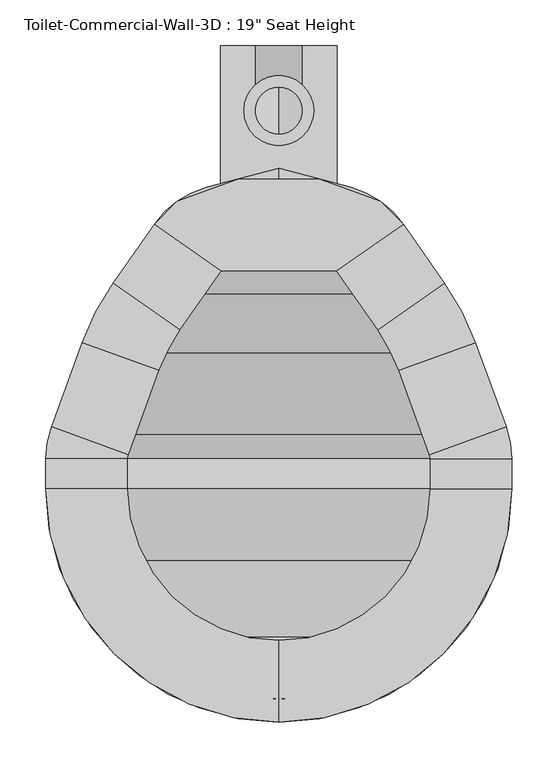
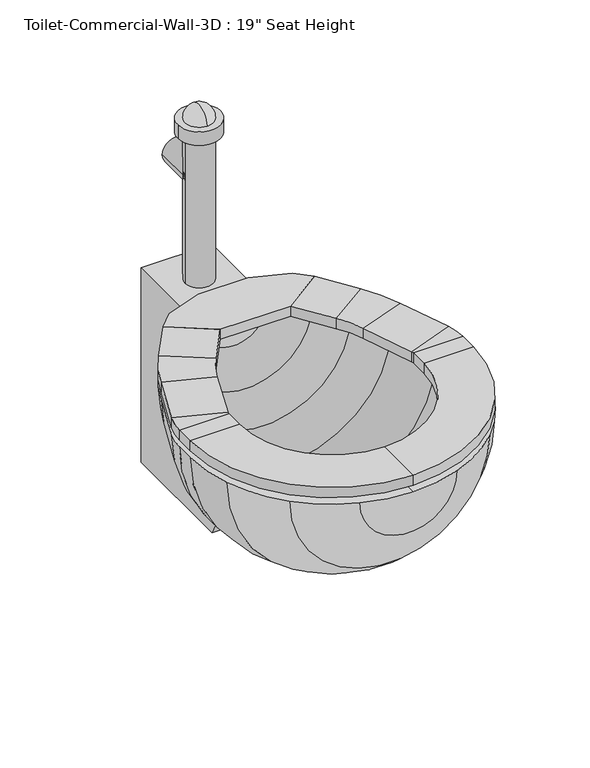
"""IFC4 building model written with IfcOpenShell, lengths in millimetres: flow terminal geometry."""

from ifc_helpers import new_model, si_unit, point, frame, frame_2d, origin, place, context, project, spatial, polyline, circle_curve, ellipse_curve, trimmed, segment, composite_curve, outline, extrude, source, transform, mapped, element, save
from ifc_brep_helpers import plane_surface, cylinder_surface, revolved_surface, advanced_brep


def flow_terminal_a41eccac(model_context):
    return source(origin(), model_context, "Body", "SolidModel", [
        extrude(outline(polyline([(467.7541169, -245.0347495), (342.0521907, -245.0347495), (269.229574, -194.0438043), (294.1800557, -169.0933226), (360.2423986, -145.0485961), (449.563909, -145.0485961), (515.6262519, -169.0933226), (540.5767337, -194.0438043), (467.7541169, -245.0347495)])), frame((0.0, 0.0, 457.2), z_axis=(0.0, 0.0, 1.0), x_axis=(1.0, 0.0, 0.0)), (0.0, 0.0, 1.0), 19.05),
        advanced_brep(
        [(467.7541169, -245.0347495, 457.2), (467.7541169, -245.0347495, 476.25), (540.5767337, -194.0438043, 476.25), (540.5767337, -194.0438043, 457.2), (585.6810159, -258.4593951, 457.2), (512.8583992, -309.4503403, 457.2), (585.6810159, -258.4593951, 476.25), (512.8583992, -309.4503403, 476.25), (619.360053, -323.1562234, 457.2), (535.821379, -353.5618141, 457.2), (619.360053, -323.1562234, 476.25), (535.821379, -353.5618141, 476.25), (652.7759241, -414.9655747, 457.2), (569.2372501, -445.3711654, 457.2), (652.7759241, -414.9655747, 476.25), (569.2372501, -445.3711654, 476.25), (658.9031538, -449.7148212, 457.2), (570.0031538, -449.7148212, 457.2), (658.9031538, -449.7148212, 476.25), (570.0031538, -449.7148212, 476.25), (658.9031538, -482.6, 457.2), (570.0031538, -482.6, 457.2), (658.9031538, -482.6, 476.25), (570.0031538, -482.6, 476.25), (404.9031538, -736.6, 457.2), (404.9031538, -647.7, 457.2), (404.9031538, -736.6, 476.25), (404.9031538, -647.7, 476.25), (150.9031538, -482.6, 457.2), (239.8031538, -482.6, 457.2), (150.9031538, -482.6, 476.25), (239.8031538, -482.6, 476.25), (150.9031538, -449.7148212, 457.2), (239.8031538, -449.7148212, 457.2), (150.9031538, -449.7148212, 476.25), (239.8031538, -449.7148212, 476.25), (157.0303835, -414.9655747, 457.2), (240.5690575, -445.3711654, 457.2), (157.0303835, -414.9655747, 476.25), (240.5690575, -445.3711654, 476.25), (190.4462546, -323.1562234, 457.2), (273.9849286, -353.5618141, 457.2), (190.4462546, -323.1562234, 476.25), (273.9849286, -353.5618141, 476.25), (224.1252917, -258.4593951, 457.2), (296.9479084, -309.4503403, 457.2), (224.1252917, -258.4593951, 476.25), (296.9479084, -309.4503403, 476.25), (342.0521907, -245.0347495, 457.2), (269.229574, -194.0438043, 457.2), (269.229574, -194.0438043, 476.25), (342.0521907, -245.0347495, 476.25)],
        [
            (0, 1),
            (1, 2),
            (2, 3),
            (3, 0),
            (3, 4),
            (4, 5),
            (5, 0),
            (2, 6),
            (6, 4),
            (1, 7),
            (7, 6),
            (5, 7),
            (8, 9),
            (9, 5, circle_curve(frame((356.8099347, -418.7166514, 457.2), z_axis=(0.0, 0.0, 1.0), x_axis=(0.81915204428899, 0.5735764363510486, 0.0)), 190.5)),
            (4, 8, circle_curve(frame((356.8099347, -418.7166514, 457.2), z_axis=(0.0, 0.0, -1.0), x_axis=(0.81915204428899, 0.5735764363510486, 0.0)), 279.4)),
            (10, 8),
            (6, 10, circle_curve(frame((356.8099347, -418.7166514, 476.25), z_axis=(0.0, 0.0, -1.0), x_axis=(0.81915204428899, 0.5735764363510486, 0.0)), 279.4)),
            (11, 10),
            (7, 11, circle_curve(frame((356.8099347, -418.7166514, 476.25), z_axis=(0.0, 0.0, -1.0), x_axis=(0.81915204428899, 0.5735764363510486, 0.0)), 190.5)),
            (9, 11),
            (8, 12),
            (12, 13),
            (13, 9),
            (10, 14),
            (14, 12),
            (11, 15),
            (15, 14),
            (13, 15),
            (16, 17),
            (17, 13, circle_curve(frame((557.3031538, -449.7148212, 457.2), z_axis=(0.0, 0.0, 1.0), x_axis=(0.9396926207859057, 0.3420201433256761, 0.0)), 12.7)),
            (12, 16, circle_curve(frame((557.3031538, -449.7148212, 457.2), z_axis=(0.0, 0.0, -1.0), x_axis=(0.9396926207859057, 0.3420201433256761, 0.0)), 101.6)),
            (18, 16),
            (14, 18, circle_curve(frame((557.3031538, -449.7148212, 476.25), z_axis=(0.0, 0.0, -1.0), x_axis=(0.9396926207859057, 0.3420201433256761, 0.0)), 101.6)),
            (19, 18),
            (15, 19, circle_curve(frame((557.3031538, -449.7148212, 476.25), z_axis=(0.0, 0.0, -1.0), x_axis=(0.9396926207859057, 0.3420201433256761, 0.0)), 12.7)),
            (17, 19),
            (16, 20),
            (20, 21),
            (21, 17),
            (18, 22),
            (22, 20),
            (19, 23),
            (23, 22),
            (21, 23),
            (24, 25),
            (25, 21, circle_curve(frame((404.9031538, -482.6, 457.2), z_axis=(0.0, 0.0, 1.0), x_axis=(1.0, 0.0, 0.0)), 165.1)),
            (20, 24, circle_curve(frame((404.9031538, -482.6, 457.2), z_axis=(0.0, 0.0, -1.0), x_axis=(1.0, 0.0, 0.0)), 254.0)),
            (26, 24),
            (22, 26, circle_curve(frame((404.9031538, -482.6, 476.25), z_axis=(0.0, 0.0, -1.0), x_axis=(1.0, 0.0, 0.0)), 254.0)),
            (27, 26),
            (23, 27, circle_curve(frame((404.9031538, -482.6, 476.25), z_axis=(0.0, 0.0, -1.0), x_axis=(1.0, 0.0, 0.0)), 165.1)),
            (25, 27),
            (28, 29),
            (29, 25, circle_curve(frame((404.9031538, -482.6, 457.2), z_axis=(0.0, 0.0, 1.0), x_axis=(0.0, -1.0, 0.0)), 165.1)),
            (24, 28, circle_curve(frame((404.9031538, -482.6, 457.2), z_axis=(0.0, 0.0, -1.0), x_axis=(0.0, -1.0, 0.0)), 254.0)),
            (30, 28),
            (26, 30, circle_curve(frame((404.9031538, -482.6, 476.25), z_axis=(0.0, 0.0, -1.0), x_axis=(0.0, -1.0, 0.0)), 254.0)),
            (31, 30),
            (27, 31, circle_curve(frame((404.9031538, -482.6, 476.25), z_axis=(0.0, 0.0, -1.0), x_axis=(0.0, -1.0, 0.0)), 165.1)),
            (29, 31),
            (28, 32),
            (32, 33),
            (33, 29),
            (30, 34),
            (34, 32),
            (31, 35),
            (35, 34),
            (33, 35),
            (36, 37),
            (37, 33, circle_curve(frame((252.5031538, -449.7148212, 457.2), z_axis=(0.0, 0.0, 1.0), x_axis=(-1.0, 0.0, 0.0)), 12.7)),
            (32, 36, circle_curve(frame((252.5031538, -449.7148212, 457.2), z_axis=(0.0, 0.0, -1.0), x_axis=(-1.0, 0.0, 0.0)), 101.6)),
            (38, 36),
            (34, 38, circle_curve(frame((252.5031538, -449.7148212, 476.25), z_axis=(0.0, 0.0, -1.0), x_axis=(-1.0, 0.0, 0.0)), 101.6)),
            (39, 38),
            (35, 39, circle_curve(frame((252.5031538, -449.7148212, 476.25), z_axis=(0.0, 0.0, -1.0), x_axis=(-1.0, 0.0, 0.0)), 12.7)),
            (37, 39),
            (36, 40),
            (40, 41),
            (41, 37),
            (38, 42),
            (42, 40),
            (39, 43),
            (43, 42),
            (41, 43),
            (44, 45),
            (45, 41, circle_curve(frame((452.9963729, -418.7166514, 457.2), z_axis=(0.0, 0.0, 1.0), x_axis=(-0.939692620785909, 0.3420201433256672, 0.0)), 190.5)),
            (40, 44, circle_curve(frame((452.9963729, -418.7166514, 457.2), z_axis=(0.0, 0.0, -1.0), x_axis=(-0.939692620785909, 0.3420201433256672, 0.0)), 279.4)),
            (46, 44),
            (42, 46, circle_curve(frame((452.9963729, -418.7166514, 476.25), z_axis=(0.0, 0.0, -1.0), x_axis=(-0.939692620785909, 0.3420201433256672, 0.0)), 279.4)),
            (47, 46),
            (43, 47, circle_curve(frame((452.9963729, -418.7166514, 476.25), z_axis=(0.0, 0.0, -1.0), x_axis=(-0.939692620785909, 0.3420201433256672, 0.0)), 190.5)),
            (45, 47),
            (48, 49),
            (49, 50),
            (50, 51),
            (51, 48),
            (44, 49),
            (48, 45),
            (46, 50),
            (47, 51),
        ],
        [
            plane_surface(frame((540.5767337, -194.0438043, 538.8995365), z_axis=(-0.5735764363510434, 0.8191520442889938, 0.0), x_axis=(0.8191520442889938, 0.5735764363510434, 0.0))),
            plane_surface(frame((467.7541169, -245.0347495, 457.2), z_axis=(0.0, 0.0, -1.0), x_axis=(0.5735764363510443, -0.8191520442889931, 0.0))),
            plane_surface(frame((540.5767337, -194.0438043, 457.2), z_axis=(0.8191520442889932, 0.5735764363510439, 0.0), x_axis=(0.5735764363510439, -0.8191520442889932, 0.0))),
            plane_surface(frame((540.5767337, -194.0438043, 476.25), z_axis=(0.0, 0.0, 1.0), x_axis=(0.5735764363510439, -0.8191520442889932, 0.0))),
            plane_surface(frame((467.7541169, -245.0347495, 476.25), z_axis=(-0.8191520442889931, -0.5735764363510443, 0.0), x_axis=(0.5735764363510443, -0.8191520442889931, 0.0))),
            plane_surface(frame((356.8099347, -418.7166514, 457.2), z_axis=(0.0, 0.0, -1.0), x_axis=(0.81915204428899, 0.5735764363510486, 0.0))),
            cylinder_surface(frame((356.8099347, -418.7166514, 444.5), z_axis=(0.0, 0.0, 1.0), x_axis=(0.81915204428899, 0.5735764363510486, 0.0)), 279.4),
            plane_surface(frame((356.8099347, -418.7166514, 476.25), z_axis=(0.0, 0.0, 1.0), x_axis=(0.81915204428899, 0.5735764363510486, 0.0))),
            revolved_surface(polyline([(512.8583991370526, -309.4503402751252, 476.25), (512.8583991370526, -309.4503402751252, 457.2)]), (356.8099347, -418.7166514, 444.5), (0.0, 0.0, 1.0)),
            plane_surface(frame((535.821379, -353.5618141, 457.2), z_axis=(0.0, 0.0, -1.0), x_axis=(0.34202014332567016, -0.9396926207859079, 0.0))),
            plane_surface(frame((619.360053, -323.1562234, 457.2), z_axis=(0.9396926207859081, 0.3420201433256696, 0.0), x_axis=(0.3420201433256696, -0.9396926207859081, 0.0))),
            plane_surface(frame((619.360053, -323.1562234, 476.25), z_axis=(0.0, 0.0, 1.0), x_axis=(0.3420201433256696, -0.9396926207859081, 0.0))),
            plane_surface(frame((535.821379, -353.5618141, 476.25), z_axis=(-0.9396926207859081, -0.34202014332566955, 0.0), x_axis=(0.34202014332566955, -0.9396926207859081, 0.0))),
            plane_surface(frame((557.3031538, -449.7148212, 457.2), z_axis=(0.0, 0.0, -1.0000000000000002), x_axis=(0.9396926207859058, 0.34202014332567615, 0.0))),
            cylinder_surface(frame((557.3031538, -449.7148212, 444.5), z_axis=(0.0, 0.0, 1.0), x_axis=(0.9396926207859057, 0.3420201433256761, 0.0)), 101.6),
            plane_surface(frame((557.3031538, -449.7148212, 476.25), z_axis=(0.0, 0.0, 1.0000000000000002), x_axis=(0.9396926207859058, 0.34202014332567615, 0.0))),
            revolved_surface(polyline([(569.237250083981, -445.3711653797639, 476.25), (569.237250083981, -445.3711653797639, 457.2)]), (557.3031538, -449.7148212, 444.5), (0.0, 0.0, 1.0)),
            plane_surface(frame((570.0031538, -449.7148212, 457.2), z_axis=(0.0, 0.0, -1.0), x_axis=(0.0, -1.0, 0.0))),
            plane_surface(frame((658.9031538, -449.7148212, 457.2), z_axis=(1.0, 0.0, 0.0), x_axis=(0.0, -1.0, 0.0))),
            plane_surface(frame((658.9031538, -449.7148212, 476.25), z_axis=(0.0, 0.0, 1.0), x_axis=(0.0, -1.0, 0.0))),
            plane_surface(frame((570.0031538, -449.7148212, 476.25), z_axis=(-1.0, 0.0, 0.0), x_axis=(0.0, -1.0, 0.0))),
            plane_surface(frame((404.9031538, -482.6, 457.2), z_axis=(0.0, 0.0, -1.0), x_axis=(1.0, 0.0, 0.0))),
            cylinder_surface(frame((404.9031538, -482.6, 444.5), z_axis=(0.0, 0.0, 1.0), x_axis=(1.0, 0.0, 0.0)), 254.0),
            plane_surface(frame((404.9031538, -482.6, 476.25), z_axis=(0.0, 0.0, 1.0), x_axis=(1.0, 0.0, 0.0))),
            revolved_surface(polyline([(570.0031538, -482.6, 476.25), (570.0031538, -482.6, 457.2)]), (404.9031538, -482.6, 444.5), (0.0, 0.0, 1.0)),
            plane_surface(frame((404.9031538, -482.6, 457.2), z_axis=(0.0, 0.0, -1.0), x_axis=(0.0, -1.0, 0.0))),
            cylinder_surface(frame((404.9031538, -482.6, 444.5), z_axis=(0.0, 0.0, 1.0), x_axis=(0.0, -1.0, 0.0)), 254.0),
            plane_surface(frame((404.9031538, -482.6, 476.25), z_axis=(0.0, 0.0, 1.0), x_axis=(0.0, -1.0, 0.0))),
            revolved_surface(polyline([(404.9031538, -647.7, 476.25), (404.9031538, -647.7, 457.2)]), (404.9031538, -482.6, 444.5), (0.0, 0.0, 1.0)),
            plane_surface(frame((239.8031538, -482.6, 457.2), z_axis=(0.0, 0.0, -1.0), x_axis=(0.0, 1.0, 0.0))),
            plane_surface(frame((150.9031538, -482.6, 457.2), z_axis=(-1.0, 0.0, 0.0), x_axis=(0.0, 1.0, 0.0))),
            plane_surface(frame((150.9031538, -482.6, 476.25), z_axis=(0.0, 0.0, 1.0), x_axis=(0.0, 1.0, 0.0))),
            plane_surface(frame((239.8031538, -482.6, 476.25), z_axis=(1.0, 0.0, 0.0), x_axis=(0.0, 1.0, 0.0))),
            plane_surface(frame((252.5031538, -449.7148212, 457.2), z_axis=(0.0, 0.0, -1.0), x_axis=(-1.0, 0.0, 0.0))),
            cylinder_surface(frame((252.5031538, -449.7148212, 444.5), z_axis=(0.0, 0.0, 1.0), x_axis=(-1.0, 0.0, 0.0)), 101.6),
            plane_surface(frame((252.5031538, -449.7148212, 476.25), z_axis=(0.0, 0.0, 1.0), x_axis=(-1.0, 0.0, 0.0))),
            revolved_surface(polyline([(239.80315380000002, -449.7148212, 476.25), (239.80315380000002, -449.7148212, 457.2)]), (252.5031538, -449.7148212, 444.5), (0.0, 0.0, 1.0)),
            plane_surface(frame((240.5690575, -445.3711654, 457.2), z_axis=(0.0, 0.0, -1.0000000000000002), x_axis=(0.3420201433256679, 0.9396926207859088, 0.0))),
            plane_surface(frame((157.0303835, -414.9655747, 457.2), z_axis=(-0.939692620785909, 0.34202014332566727, 0.0), x_axis=(0.34202014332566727, 0.939692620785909, 0.0))),
            plane_surface(frame((157.0303835, -414.9655747, 476.25), z_axis=(0.0, 0.0, 1.0000000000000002), x_axis=(0.34202014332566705, 0.9396926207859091, 0.0))),
            plane_surface(frame((240.5690575, -445.3711654, 476.25), z_axis=(0.9396926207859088, -0.3420201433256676, 0.0), x_axis=(0.3420201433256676, 0.9396926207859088, 0.0))),
            plane_surface(frame((452.9963729, -418.7166514, 457.2), z_axis=(0.0, 0.0, -1.0), x_axis=(-0.939692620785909, 0.3420201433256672, 0.0))),
            cylinder_surface(frame((452.9963729, -418.7166514, 444.5), z_axis=(0.0, 0.0, 1.0), x_axis=(-0.939692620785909, 0.3420201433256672, 0.0)), 279.4),
            plane_surface(frame((452.9963729, -418.7166514, 476.25), z_axis=(0.0, 0.0, 1.0), x_axis=(-0.939692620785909, 0.3420201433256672, 0.0))),
            revolved_surface(polyline([(273.98492864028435, -353.56181409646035, 476.25), (273.98492864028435, -353.56181409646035, 457.2)]), (452.9963729, -418.7166514, 444.5), (0.0, 0.0, 1.0)),
            plane_surface(frame((269.229574, -194.0438043, 350.1004635), z_axis=(0.5735764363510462, 0.8191520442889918, 0.0), x_axis=(0.8191520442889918, -0.5735764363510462, 0.0))),
            plane_surface(frame((296.9479084, -309.4503403, 457.2), z_axis=(0.0, 0.0, -1.0000000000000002), x_axis=(0.5735764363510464, 0.8191520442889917, 0.0))),
            plane_surface(frame((224.1252917, -258.4593951, 457.2), z_axis=(-0.8191520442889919, 0.5735764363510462, 0.0), x_axis=(0.5735764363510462, 0.8191520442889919, 0.0))),
            plane_surface(frame((224.1252917, -258.4593951, 476.25), z_axis=(0.0, 0.0, 1.0000000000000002), x_axis=(0.5735764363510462, 0.8191520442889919, 0.0))),
            plane_surface(frame((296.9479084, -309.4503403, 476.25), z_axis=(0.8191520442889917, -0.5735764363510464, 0.0), x_axis=(0.5735764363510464, 0.8191520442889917, 0.0))),
        ],
        [
            (0, [[1, 2, 3, 4]]),
            (1, [[5, 6, 7, -4]]),
            (2, [[8, 9, -5, -3]]),
            (3, [[10, 11, -8, -2]]),
            (4, [[-7, 12, -10, -1]]),
            (5, [[13, 14, -6, 15]]),
            (6, [[16, -15, -9, 17]]),
            (7, [[18, -17, -11, 19]]),
            (8, [[20, -19, -12, -14]]),
            (9, [[21, 22, 23, -13]]),
            (10, [[24, 25, -21, -16]]),
            (11, [[26, 27, -24, -18]]),
            (12, [[-23, 28, -26, -20]]),
            (13, [[29, 30, -22, 31]]),
            (14, [[32, -31, -25, 33]]),
            (15, [[34, -33, -27, 35]]),
            (16, [[36, -35, -28, -30]]),
            (17, [[37, 38, 39, -29]]),
            (18, [[40, 41, -37, -32]]),
            (19, [[42, 43, -40, -34]]),
            (20, [[-39, 44, -42, -36]]),
            (21, [[45, 46, -38, 47]]),
            (22, [[48, -47, -41, 49]]),
            (23, [[50, -49, -43, 51]]),
            (24, [[52, -51, -44, -46]]),
            (25, [[53, 54, -45, 55]]),
            (26, [[56, -55, -48, 57]]),
            (27, [[58, -57, -50, 59]]),
            (28, [[60, -59, -52, -54]]),
            (29, [[61, 62, 63, -53]]),
            (30, [[64, 65, -61, -56]]),
            (31, [[66, 67, -64, -58]]),
            (32, [[-63, 68, -66, -60]]),
            (33, [[69, 70, -62, 71]]),
            (34, [[72, -71, -65, 73]]),
            (35, [[74, -73, -67, 75]]),
            (36, [[76, -75, -68, -70]]),
            (37, [[77, 78, 79, -69]]),
            (38, [[80, 81, -77, -72]]),
            (39, [[82, 83, -80, -74]]),
            (40, [[-79, 84, -82, -76]]),
            (41, [[85, 86, -78, 87]]),
            (42, [[88, -87, -81, 89]]),
            (43, [[90, -89, -83, 91]]),
            (44, [[92, -91, -84, -86]]),
            (45, [[93, 94, 95, 96]]),
            (46, [[97, -93, 98, -85]]),
            (47, [[99, -94, -97, -88]]),
            (48, [[100, -95, -99, -90]]),
            (49, [[-98, -96, -100, -92]]),
        ],
    ),
        advanced_brep(
        [(491.7762702, -721.2819257, 444.5), (584.5082762, -662.2051224, 444.5), (643.5850795, -569.4731164, 444.5), (658.9031538, -482.6, 444.5), (658.9031538, -449.7148212, 444.5), (652.7759241, -414.9655747, 444.5), (619.360053, -323.1562234, 444.5), (585.6810159, -258.4593951, 444.5), (540.5767337, -194.0438043, 444.5), (483.6469009, -154.1811063, 444.5), (404.9031538, -133.0817829, 444.5), (404.9031538, -159.3777978, 444.5), (468.1430637, -176.3228806, 444.5), (525.0728964, -216.1855786, 444.5), (562.9565296, -270.2890139, 444.5), (596.6355667, -334.9858422, 444.5), (628.9077315, -423.6528863, 444.5), (633.5031538, -449.7148212, 444.5), (633.5031538, -482.6, 444.5), (619.7168869, -560.7858048, 444.5), (566.547764, -644.2446102, 444.5), (483.0889586, -697.4137331, 444.5), (404.9031538, -711.2, 444.5), (404.9031538, -736.6, 444.5), (318.0300374, -721.2819257, 444.5), (326.7173491, -697.4137331, 444.5), (243.2585436, -644.2446102, 444.5), (190.0894207, -560.7858048, 444.5), (176.3031538, -482.6, 444.5), (176.3031538, -449.7148212, 444.5), (180.8985761, -423.6528863, 444.5), (213.1707409, -334.9858422, 444.5), (246.849778, -270.2890139, 444.5), (284.7334112, -216.1855786, 444.5), (341.663244, -176.3228806, 444.5), (326.1594067, -154.1811063, 444.5), (269.229574, -194.0438043, 444.5), (224.1252917, -258.4593951, 444.5), (190.4462546, -323.1562234, 444.5), (157.0303835, -414.9655747, 444.5), (150.9031538, -449.7148212, 444.5), (150.9031538, -482.6, 444.5), (166.2212281, -569.4731164, 444.5), (225.2980314, -662.2051224, 444.5)],
        [
            (0, 1, circle_curve(frame((404.9031538, -482.6, 444.5), z_axis=(0.0, 0.0, 1.0), x_axis=(1.0, 0.0, 0.0)), 254.0)),
            (1, 2, circle_curve(frame((404.9031538, -482.6, 444.5), z_axis=(0.0, 0.0, 1.0), x_axis=(1.0, 0.0, 0.0)), 254.0)),
            (2, 3, circle_curve(frame((404.9031538, -482.6, 444.5), z_axis=(0.0, 0.0, 1.0), x_axis=(1.0, 0.0, 0.0)), 254.0)),
            (3, 4),
            (4, 5, circle_curve(frame((557.3031538, -449.7148212, 444.5), z_axis=(0.0, 0.0, 1.0), x_axis=(1.0, 0.0, 0.0)), 101.6)),
            (5, 6),
            (6, 7, circle_curve(frame((356.8099347, -418.7166514, 444.5), z_axis=(0.0, 0.0, 1.0), x_axis=(1.0, 0.0, 0.0)), 279.4)),
            (7, 8),
            (8, 9, circle_curve(frame((457.350886, -252.3191703, 444.5), z_axis=(0.0, 0.0, 1.0), x_axis=(1.0, 0.0, 0.0)), 101.6)),
            (9, 10),
            (10, 11),
            (11, 12),
            (12, 13, circle_curve(frame((441.8470487, -274.4609446, 444.5), z_axis=(0.0, 0.0, -1.0), x_axis=(1.0, 0.0, 0.0)), 101.6)),
            (13, 14),
            (14, 15, circle_curve(frame((334.0854485, -430.5462703, 444.5), z_axis=(0.0, 0.0, -1.0), x_axis=(1.0, 0.0, 0.0)), 279.4)),
            (15, 16),
            (16, 17, circle_curve(frame((557.3031538, -449.7148212, 444.5), z_axis=(0.0, 0.0, -1.0), x_axis=(1.0, 0.0, 0.0)), 76.2)),
            (17, 18),
            (18, 19, circle_curve(frame((404.9031538, -482.6, 444.5), z_axis=(0.0, 0.0, -1.0), x_axis=(1.0, 0.0, 0.0)), 228.6)),
            (19, 20, circle_curve(frame((404.9031538, -482.6, 444.5), z_axis=(0.0, 0.0, -1.0), x_axis=(1.0, 0.0, 0.0)), 228.6)),
            (20, 21, circle_curve(frame((404.9031538, -482.6, 444.5), z_axis=(0.0, 0.0, -1.0), x_axis=(1.0, 0.0, 0.0)), 228.6)),
            (21, 22, circle_curve(frame((404.9031538, -482.6, 444.5), z_axis=(0.0, 0.0, -1.0), x_axis=(1.0, 0.0, 0.0)), 228.6)),
            (22, 23),
            (23, 0, circle_curve(frame((404.9031538, -482.6, 444.5), z_axis=(0.0, 0.0, 1.0), x_axis=(1.0, 0.0, 0.0)), 254.0)),
            (24, 23, circle_curve(frame((404.9031538, -482.6, 444.5), z_axis=(0.0, 0.0, 1.0), x_axis=(-1.0, 0.0, 0.0)), 254.0)),
            (22, 25, circle_curve(frame((404.9031538, -482.6, 444.5), z_axis=(0.0, 0.0, -1.0), x_axis=(-1.0, 0.0, 0.0)), 228.6)),
            (25, 26, circle_curve(frame((404.9031538, -482.6, 444.5), z_axis=(0.0, 0.0, -1.0), x_axis=(-1.0, 0.0, 0.0)), 228.6)),
            (26, 27, circle_curve(frame((404.9031538, -482.6, 444.5), z_axis=(0.0, 0.0, -1.0), x_axis=(-1.0, 0.0, 0.0)), 228.6)),
            (27, 28, circle_curve(frame((404.9031538, -482.6, 444.5), z_axis=(0.0, 0.0, -1.0), x_axis=(-1.0, 0.0, 0.0)), 228.6)),
            (28, 29),
            (29, 30, circle_curve(frame((252.5031538, -449.7148212, 444.5), z_axis=(0.0, 0.0, -1.0), x_axis=(-1.0, 0.0, 0.0)), 76.2)),
            (30, 31),
            (31, 32, circle_curve(frame((475.7208592, -430.5462703, 444.5), z_axis=(0.0, 0.0, -1.0), x_axis=(-1.0, 0.0, 0.0)), 279.4)),
            (32, 33),
            (33, 34, circle_curve(frame((367.9592589, -274.4609446, 444.5), z_axis=(0.0, 0.0, -1.0), x_axis=(-1.0, 0.0, 0.0)), 101.6)),
            (34, 11),
            (10, 35),
            (35, 36, circle_curve(frame((352.4554217, -252.3191703, 444.5), z_axis=(0.0, 0.0, 1.0), x_axis=(-1.0, 0.0, 0.0)), 101.6)),
            (36, 37),
            (37, 38, circle_curve(frame((452.9963729, -418.7166514, 444.5), z_axis=(0.0, 0.0, 1.0), x_axis=(-1.0, 0.0, 0.0)), 279.4)),
            (38, 39),
            (39, 40, circle_curve(frame((252.5031538, -449.7148212, 444.5), z_axis=(0.0, 0.0, 1.0), x_axis=(-1.0, 0.0, 0.0)), 101.6)),
            (40, 41),
            (41, 42, circle_curve(frame((404.9031538, -482.6, 444.5), z_axis=(0.0, 0.0, 1.0), x_axis=(-1.0, 0.0, 0.0)), 254.0)),
            (42, 43, circle_curve(frame((404.9031538, -482.6, 444.5), z_axis=(0.0, 0.0, 1.0), x_axis=(-1.0, 0.0, 0.0)), 254.0)),
            (43, 24, circle_curve(frame((404.9031538, -482.6, 444.5), z_axis=(0.0, 0.0, 1.0), x_axis=(-1.0, 0.0, 0.0)), 254.0)),
            (24, 0, circle_curve(frame((404.9031538, -721.2819257, 444.5), z_axis=(0.0, -1.0, 0.0), x_axis=(1.0, 0.0, 0.0)), 86.8731164)),
            (21, 25, circle_curve(frame((404.9031538, -697.4137331, 444.5), z_axis=(0.0, 1.0, 0.0), x_axis=(1.0, 0.0, 0.0)), 78.1858048)),
            (20, 26, circle_curve(frame((404.9031538, -644.2446102, 444.5), z_axis=(0.0, 1.0, 0.0), x_axis=(1.0, 0.0, 0.0)), 161.6446102)),
            (19, 27, circle_curve(frame((404.9031538, -560.7858048, 444.5), z_axis=(0.0, 1.0, 0.0), x_axis=(1.0, 0.0, 0.0)), 214.8137331)),
            (18, 28, circle_curve(frame((404.9031538, -482.6, 444.5), z_axis=(0.0, 1.0, 0.0), x_axis=(1.0, 0.0, 0.0)), 228.6)),
            (17, 29, circle_curve(frame((404.9031538, -449.7148212, 444.5), z_axis=(0.0, 1.0, 0.0), x_axis=(1.0, 0.0, 0.0)), 228.6)),
            (16, 30, circle_curve(frame((404.9031538, -423.6528863, 444.5), z_axis=(0.0, 1.0, 0.0), x_axis=(1.0, 0.0, 0.0)), 224.0045777)),
            (15, 31, circle_curve(frame((404.9031538, -334.9858422, 444.5), z_axis=(0.0, 1.0, 0.0), x_axis=(1.0, 0.0, 0.0)), 191.7324129)),
            (14, 32, circle_curve(frame((404.9031538, -270.2890139, 444.5), z_axis=(0.0, 1.0, 0.0), x_axis=(1.0, 0.0, 0.0)), 158.0533758)),
            (13, 33, circle_curve(frame((404.9031538, -216.1855786, 444.5), z_axis=(0.0, 1.0, 0.0), x_axis=(1.0, 0.0, 0.0)), 120.1697426)),
            (12, 34, circle_curve(frame((404.9031538, -176.3228806, 444.5), z_axis=(0.0, 1.0, 0.0), x_axis=(1.0, 0.0, 0.0)), 63.2399099)),
            (9, 35, circle_curve(frame((404.9031538, -154.1811063, 444.5), z_axis=(0.0, 1.0, 0.0), x_axis=(1.0, 0.0, 0.0)), 78.7437471)),
            (8, 36, circle_curve(frame((404.9031538, -194.0438043, 444.5), z_axis=(0.0, 1.0, 0.0), x_axis=(1.0, 0.0, 0.0)), 135.6735798)),
            (7, 37, circle_curve(frame((404.9031538, -258.4593951, 444.5), z_axis=(0.0, 1.0, 0.0), x_axis=(1.0, 0.0, 0.0)), 180.7778621)),
            (6, 38, circle_curve(frame((404.9031538, -323.1562234, 444.5), z_axis=(0.0, 1.0, 0.0), x_axis=(1.0, 0.0, 0.0)), 214.4568992)),
            (5, 39, circle_curve(frame((404.9031538, -414.9655747, 444.5), z_axis=(0.0, 1.0, 0.0), x_axis=(1.0, 0.0, 0.0)), 247.8727703)),
            (4, 40, circle_curve(frame((404.9031538, -449.7148212, 444.5), z_axis=(0.0, 1.0, 0.0), x_axis=(1.0, 0.0, 0.0)), 254.0)),
            (3, 41, circle_curve(frame((404.9031538, -482.6, 444.5), z_axis=(0.0, 1.0, 0.0), x_axis=(1.0, 0.0, 0.0)), 254.0)),
            (2, 42, circle_curve(frame((404.9031538, -569.4731164, 444.5), z_axis=(0.0, 1.0, 0.0), x_axis=(1.0, 0.0, 0.0)), 238.6819257)),
            (1, 43, circle_curve(frame((404.9031538, -662.2051224, 444.5), z_axis=(0.0, 1.0, 0.0), x_axis=(1.0, 0.0, 0.0)), 179.6051224)),
        ],
        [
            plane_surface(frame((404.9031538, -841.8102448, 444.5), z_axis=(0.0, 0.0, 1.0), x_axis=(1.0, 0.0, 0.0))),
            plane_surface(frame((404.9031538, -841.8102448, 444.5), z_axis=(0.0, 0.0, 1.0), x_axis=(-1.0, 0.0, 0.0))),
            revolved_surface(trimmed(ellipse_curve(frame((404.9031538, -482.6, 444.5), z_axis=(0.0, 0.0, -1.0), x_axis=(1.0, 0.0, 0.0)), 254.0, 254.0), [point((491.7762702, -721.2819257, 444.5))], [point((404.9031538, -736.6, 444.5))], True, "CARTESIAN"), (404.9031538, -841.8102448, 444.5), (0.0, -1.0, 0.0)),
            revolved_surface(trimmed(ellipse_curve(frame((404.9031538, -482.6, 444.5), z_axis=(0.0, 0.0, 1.0), x_axis=(1.0, 0.0, 0.0)), 228.6, 228.6), [point((404.9031538, -711.2, 444.5))], [point((483.0889586, -697.4137331, 444.5))], True, "CARTESIAN"), (404.9031538, -841.8102448, 444.5), (0.0, -1.0, 0.0)),
            revolved_surface(trimmed(ellipse_curve(frame((404.9031538, -482.6, 444.5), z_axis=(0.0, 0.0, 1.0), x_axis=(1.0, 0.0, 0.0)), 228.6, 228.6), [point((483.0889586, -697.4137331, 444.5))], [point((566.547764, -644.2446102, 444.5))], True, "CARTESIAN"), (404.9031538, -841.8102448, 444.5), (0.0, -1.0, 0.0)),
            revolved_surface(trimmed(ellipse_curve(frame((404.9031538, -482.6, 444.5), z_axis=(0.0, 0.0, 1.0), x_axis=(1.0, 0.0, 0.0)), 228.6, 228.6), [point((566.547764, -644.2446102, 444.5))], [point((619.7168869, -560.7858048, 444.5))], True, "CARTESIAN"), (404.9031538, -841.8102448, 444.5), (0.0, -1.0, 0.0)),
            revolved_surface(trimmed(ellipse_curve(frame((404.9031538, -482.6, 444.5), z_axis=(0.0, 0.0, 1.0), x_axis=(1.0, 0.0, 0.0)), 228.6, 228.6), [point((619.7168869, -560.7858048, 444.5))], [point((633.5031538, -482.6, 444.5))], True, "CARTESIAN"), (404.9031538, -841.8102448, 444.5), (0.0, -1.0, 0.0)),
            revolved_surface(polyline([(633.5031538, -482.6, 444.5), (633.5031538, -449.7148212, 444.5)]), (404.9031538, -841.8102448, 444.5), (0.0, -1.0, 0.0)),
            revolved_surface(trimmed(ellipse_curve(frame((557.3031538, -449.7148212, 444.5), z_axis=(0.0, 0.0, 1.0), x_axis=(1.0, 0.0, 0.0)), 76.2, 76.2), [point((633.5031538, -449.7148212, 444.5))], [point((628.9077315, -423.6528863, 444.5))], True, "CARTESIAN"), (404.9031538, -841.8102448, 444.5), (0.0, -1.0, 0.0)),
            revolved_surface(polyline([(628.9077315, -423.6528863, 444.5), (596.6355667, -334.9858422, 444.5)]), (404.9031538, -841.8102448, 444.5), (0.0, -1.0, 0.0)),
            revolved_surface(trimmed(ellipse_curve(frame((334.0854485, -430.5462703, 444.5), z_axis=(0.0, 0.0, 1.0), x_axis=(1.0, 0.0, 0.0)), 279.4, 279.4), [point((596.6355667, -334.9858422, 444.5))], [point((562.9565296, -270.2890139, 444.5))], True, "CARTESIAN"), (404.9031538, -841.8102448, 444.5), (0.0, -1.0, 0.0)),
            revolved_surface(polyline([(562.9565296, -270.2890139, 444.5), (525.0728964, -216.1855786, 444.5)]), (404.9031538, -841.8102448, 444.5), (0.0, -1.0, 0.0)),
            revolved_surface(trimmed(ellipse_curve(frame((441.8470487, -274.4609446, 444.5), z_axis=(0.0, 0.0, 1.0), x_axis=(1.0, 0.0, 0.0)), 101.6, 101.6), [point((525.0728964, -216.1855786, 444.5))], [point((468.1430637, -176.3228806, 444.5))], True, "CARTESIAN"), (404.9031538, -841.8102448, 444.5), (0.0, -1.0, 0.0)),
            revolved_surface(polyline([(468.1430637, -176.3228806, 444.5), (404.9031538, -159.3777978, 444.5)]), (404.9031538, -841.8102448, 444.5), (0.0, -1.0, 0.0)),
            revolved_surface(polyline([(404.9031538, -133.0817829, 444.5), (483.6469009, -154.1811063, 444.5)]), (404.9031538, -841.8102448, 444.5), (0.0, -1.0, 0.0)),
            revolved_surface(trimmed(ellipse_curve(frame((457.350886, -252.3191703, 444.5), z_axis=(0.0, 0.0, -1.0), x_axis=(1.0, 0.0, 0.0)), 101.6, 101.6), [point((483.6469009, -154.1811063, 444.5))], [point((540.5767337, -194.0438043, 444.5))], True, "CARTESIAN"), (404.9031538, -841.8102448, 444.5), (0.0, -1.0, 0.0)),
            revolved_surface(polyline([(540.5767337, -194.0438043, 444.5), (585.6810159, -258.4593951, 444.5)]), (404.9031538, -841.8102448, 444.5), (0.0, -1.0, 0.0)),
            revolved_surface(trimmed(ellipse_curve(frame((356.8099347, -418.7166514, 444.5), z_axis=(0.0, 0.0, -1.0), x_axis=(1.0, 0.0, 0.0)), 279.4, 279.4), [point((585.6810159, -258.4593951, 444.5))], [point((619.360053, -323.1562234, 444.5))], True, "CARTESIAN"), (404.9031538, -841.8102448, 444.5), (0.0, -1.0, 0.0)),
            revolved_surface(polyline([(619.360053, -323.1562234, 444.5), (652.7759241, -414.9655747, 444.5)]), (404.9031538, -841.8102448, 444.5), (0.0, -1.0, 0.0)),
            revolved_surface(trimmed(ellipse_curve(frame((557.3031538, -449.7148212, 444.5), z_axis=(0.0, 0.0, -1.0), x_axis=(1.0, 0.0, 0.0)), 101.6, 101.6), [point((652.7759241, -414.9655747, 444.5))], [point((658.9031538, -449.7148212, 444.5))], True, "CARTESIAN"), (404.9031538, -841.8102448, 444.5), (0.0, -1.0, 0.0)),
            cylinder_surface(frame((404.9031538, -841.8102448, 444.5), z_axis=(0.0, -1.0, 0.0), x_axis=(1.0, 0.0, 0.0)), 254.0),
            revolved_surface(trimmed(ellipse_curve(frame((404.9031538, -482.6, 444.5), z_axis=(0.0, 0.0, -1.0), x_axis=(1.0, 0.0, 0.0)), 254.0, 254.0), [point((658.9031538, -482.6, 444.5))], [point((643.5850795, -569.4731164, 444.5))], True, "CARTESIAN"), (404.9031538, -841.8102448, 444.5), (0.0, -1.0, 0.0)),
            revolved_surface(trimmed(ellipse_curve(frame((404.9031538, -482.6, 444.5), z_axis=(0.0, 0.0, -1.0), x_axis=(1.0, 0.0, 0.0)), 254.0, 254.0), [point((643.5850795, -569.4731164, 444.5))], [point((584.5082762, -662.2051224, 444.5))], True, "CARTESIAN"), (404.9031538, -841.8102448, 444.5), (0.0, -1.0, 0.0)),
            revolved_surface(trimmed(ellipse_curve(frame((404.9031538, -482.6, 444.5), z_axis=(0.0, 0.0, -1.0), x_axis=(1.0, 0.0, 0.0)), 254.0, 254.0), [point((584.5082762, -662.2051224, 444.5))], [point((491.7762702, -721.2819257, 444.5))], True, "CARTESIAN"), (404.9031538, -841.8102448, 444.5), (0.0, -1.0, 0.0)),
        ],
        [
            (0, [[1, 2, 3, 4, 5, 6, 7, 8, 9, 10, 11, 12, 13, 14, 15, 16, 17, 18, 19, 20, 21, 22, 23, 24]]),
            (1, [[25, -23, 26, 27, 28, 29, 30, 31, 32, 33, 34, 35, 36, -11, 37, 38, 39, 40, 41, 42, 43, 44, 45, 46]]),
            (2, [[-25, 47, -24]]),
            (3, [[-26, -22, 48]]),
            (4, [[-27, -48, -21, 49]]),
            (5, [[-28, -49, -20, 50]]),
            (6, [[-29, -50, -19, 51]]),
            (7, [[-30, -51, -18, 52]]),
            (8, [[-31, -52, -17, 53]]),
            (9, [[-32, -53, -16, 54]]),
            (10, [[-33, -54, -15, 55]]),
            (11, [[-34, -55, -14, 56]]),
            (12, [[-35, -56, -13, 57]]),
            (13, [[-36, -57, -12]]),
            (14, [[-37, -10, 58]]),
            (15, [[-38, -58, -9, 59]]),
            (16, [[-39, -59, -8, 60]]),
            (17, [[-40, -60, -7, 61]]),
            (18, [[-41, -61, -6, 62]]),
            (19, [[-42, -62, -5, 63]]),
            (20, [[-43, -63, -4, 64]]),
            (21, [[-44, -64, -3, 65]]),
            (22, [[-45, -65, -2, 66]]),
            (23, [[-46, -66, -1, -47]]),
        ],
    ),
        advanced_brep(
        [(404.9031538, -44.9176912, 749.3), (404.9031538, -70.5352737, 774.9175826), (404.9031538, -96.1528563, 749.3), (404.9031538, -70.5352737, 749.3)],
        [
            (0, 1, circle_curve(frame((404.9031538, -70.5352737, 749.3), z_axis=(1.0, 0.0, 0.0), x_axis=(0.0, -1.0, 0.0)), 25.6175826)),
            (1, 2, circle_curve(frame((404.9031538, -70.5352737, 749.3), z_axis=(1.0, 0.0, 0.0), x_axis=(0.0, 1.0, 0.0)), 25.6175826)),
            (2, 0, circle_curve(frame((404.9031538, -70.5352737, 749.3), z_axis=(0.0, 0.0, 1.0), x_axis=(0.0, -1.0, 0.0)), 25.6175826)),
            (0, 2, circle_curve(frame((404.9031538, -70.5352737, 749.3), z_axis=(0.0, 0.0, 1.0), x_axis=(0.0, -1.0, 0.0)), 25.6175826)),
            (3, 0),
            (2, 3),
        ],
        [
            revolved_surface(trimmed(ellipse_curve(frame((404.9031538, -70.5352737, 749.3), z_axis=(1.0, 0.0, 0.0), x_axis=(0.0, 1.0, 0.0)), 25.6175826, 25.6175826), [point((404.9031538, -70.5352737, 774.9175826))], [point((404.9031538, -96.1528563, 749.3))], True, "CARTESIAN"), (404.9031538, -70.5352737, 813.9277273), (0.0, 0.0, -1.0)),
            plane_surface(frame((404.9031538, -70.5352737, 749.3), z_axis=(0.0, 0.0, -1.0), x_axis=(0.0, -1.0, 0.0))),
        ],
        [
            (0, [[1, 2, 3]]),
            (0, [[-2, -1, 4]]),
            (1, [[5, -3, 6]]),
            (1, [[-6, -4, -5]]),
        ],
    ),
        extrude(outline(composite_curve([segment(trimmed(circle_curve(frame_2d((404.9031538, -70.5352737)), 38.1), [point((366.8031538, -70.5352737))], [point((443.0031538, -70.5352737))], False, "CARTESIAN"), True, "CONTINUOUS"), segment(trimmed(circle_curve(frame_2d((404.9031538, -70.5352737)), 38.1), [point((443.0031538, -70.5352737))], [point((366.8031538, -70.5352737))], False, "CARTESIAN"), True, "CONTINUOUS")], self_intersect=False)), frame((0.0, 0.0, 723.9), z_axis=(0.0, 0.0, 1.0), x_axis=(1.0, 0.0, 0.0)), (0.0, 0.0, 1.0), 25.4),
        extrude(outline(composite_curve([segment(trimmed(circle_curve(frame_2d((645.8113641, 404.9031538)), 25.4), [point((645.8113641, 379.5031538))], [point((645.8113641, 430.3031538))], False, "CARTESIAN"), True, "CONTINUOUS"), segment(trimmed(circle_curve(frame_2d((645.8113641, 404.9031538)), 25.4), [point((645.8113641, 430.3031538))], [point((645.8113641, 379.5031538))], False, "CARTESIAN"), True, "CONTINUOUS")], self_intersect=False)), frame((0.0, -70.64375, 0.0), z_axis=(0.0, 1.0, 0.0), x_axis=(0.0, 0.0, 1.0)), (0.0, 0.0, 1.0), 70.64375),
        extrude(outline(polyline([(-152.8037941, 444.5), (0.0, 444.5), (0.0, 76.2), (-220.0454017, 76.2), (-300.5426282, 235.6328588), (-196.5103185, 308.4770663), (-152.8037941, 370.896452), (-152.8037941, 444.5)])), frame((341.4031538, 0.0, 0.0), z_axis=(1.0, 0.0, 0.0), x_axis=(0.0, 1.0, 0.0)), (0.0, 0.0, 1.0), 127.0),
        extrude(outline(composite_curve([segment(trimmed(circle_curve(frame_2d((404.9031538, -70.5352737)), 25.4), [point((379.5031538, -70.5352737))], [point((430.3031538, -70.5352737))], False, "CARTESIAN"), True, "CONTINUOUS"), segment(trimmed(circle_curve(frame_2d((404.9031538, -70.5352737)), 25.4), [point((430.3031538, -70.5352737))], [point((379.5031538, -70.5352737))], False, "CARTESIAN"), True, "CONTINUOUS")], self_intersect=False)), frame((0.0, 0.0, 444.5), z_axis=(0.0, 0.0, 1.0), x_axis=(1.0, 0.0, 0.0)), (0.0, 0.0, 1.0), 279.4),
    ])


if __name__ == "__main__":
    model = new_model("IFC4")
    model_context = context("Model", 3, world=origin())
    ifc_project = project(units=[si_unit("LENGTHUNIT", "METRE", prefix="MILLI")], contexts=[model_context])
    site = spatial("IfcSite", under=ifc_project)
    building = spatial("IfcBuilding", under=site)
    placement = place(None, origin())
    flow_terminal_shape = flow_terminal_a41eccac(model_context)
    element("IfcFlowTerminal", 1, ObjectType="Toilet-Commercial-Wall-3D : 19\" Seat Height", at=placement, inside=building, context=model_context, shape_type="MappedRepresentation", body=[
        mapped(flow_terminal_shape, transform((0.0, 0.0, 0.0), x_axis=(1.0, 0.0, 0.0), y_axis=(0.0, 1.0, 0.0), z_axis=(0.0, 0.0, 1.0))),
    ])
    save(model, "model.ifc")
